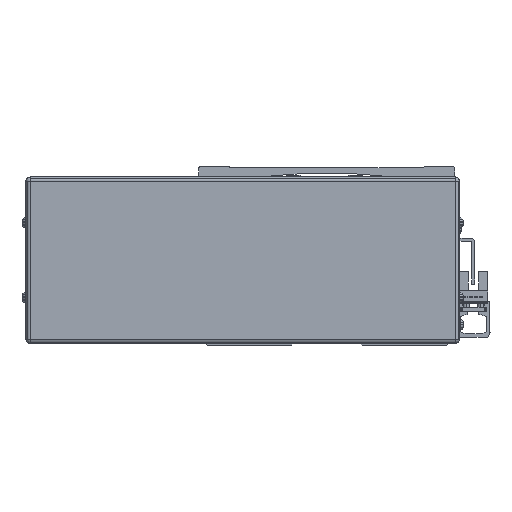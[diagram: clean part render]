
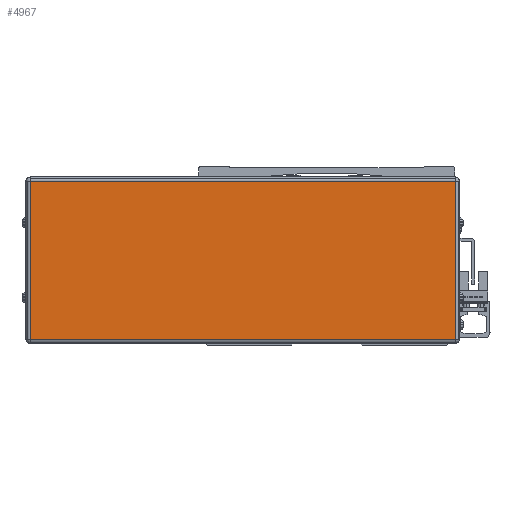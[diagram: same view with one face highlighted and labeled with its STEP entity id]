
A CAD part, front view. The second image highlights one B-rep face of the part: STEP entity #4967.
In plain terms, the highlighted planar face has unit normal (0, -1, 0).
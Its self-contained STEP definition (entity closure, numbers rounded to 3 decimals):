
#4967=ADVANCED_FACE('',(#11247),#11248,.F.);
#11247=FACE_OUTER_BOUND('',#19713,.T.);
#11248=PLANE('',#19714);
#19713=EDGE_LOOP('',(#34717,#34718,#34719,#34720));
#19714=AXIS2_PLACEMENT_3D('',#34721,#34722,#34723);
#34717=ORIENTED_EDGE('',*,*,#53135,.T.);
#34718=ORIENTED_EDGE('',*,*,#53136,.T.);
#34719=ORIENTED_EDGE('',*,*,#53137,.T.);
#34720=ORIENTED_EDGE('',*,*,#53138,.T.);
#34721=CARTESIAN_POINT('',(-340.5,-313.778,-8.));
#34722=DIRECTION('',(0.,1.0,0.));
#34723=DIRECTION('',(-1.0,0.,0.));
#53135=EDGE_CURVE('',#64777,#65449,#65450,.T.);
#53136=EDGE_CURVE('',#65449,#65451,#65452,.T.);
#53137=EDGE_CURVE('',#65451,#65453,#65454,.T.);
#53138=EDGE_CURVE('',#65453,#64777,#65455,.T.);
#64777=VERTEX_POINT('',#81210);
#65449=VERTEX_POINT('',#82180);
#65450=LINE('',#82181,#82182);
#65451=VERTEX_POINT('',#82183);
#65452=LINE('',#82184,#82185);
#65453=VERTEX_POINT('',#82186);
#65454=LINE('',#82187,#82188);
#65455=LINE('',#82189,#82190);
#81210=CARTESIAN_POINT('',(-442.7,-313.778,30.));
#82180=CARTESIAN_POINT('',(-442.7,-313.778,-46.));
#82181=CARTESIAN_POINT('',(-442.7,-313.778,-8.));
#82182=VECTOR('',#95662,10.0);
#82183=CARTESIAN_POINT('',(-238.3,-313.778,-46.));
#82184=CARTESIAN_POINT('',(-340.5,-313.778,-46.));
#82185=VECTOR('',#95663,10.0);
#82186=CARTESIAN_POINT('',(-238.3,-313.778,30.));
#82187=CARTESIAN_POINT('',(-238.3,-313.778,-8.));
#82188=VECTOR('',#95664,10.0);
#82189=CARTESIAN_POINT('',(-340.5,-313.778,30.));
#82190=VECTOR('',#95665,10.0);
#95662=DIRECTION('',(0.0,0.,-1.0));
#95663=DIRECTION('',(1.0,0.,0.));
#95664=DIRECTION('',(0.0,0.,1.0));
#95665=DIRECTION('',(-1.0,0.,0.));
